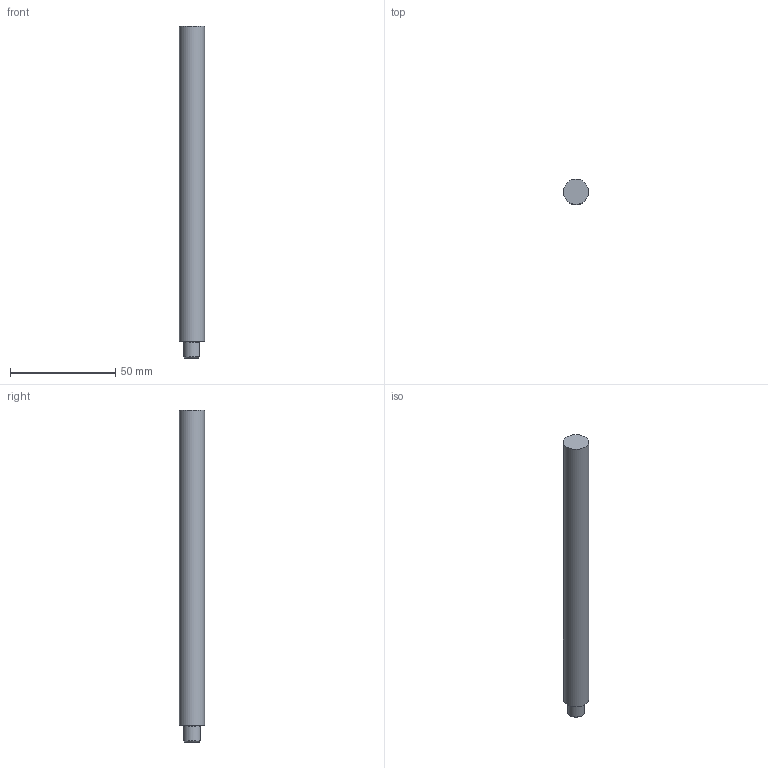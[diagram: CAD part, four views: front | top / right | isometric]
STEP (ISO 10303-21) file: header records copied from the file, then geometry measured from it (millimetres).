
FILE_DESCRIPTION (( 'STEP AP214' ), '1' );
FILE_NAME ('KKPHF Pin C_-_8-150.step', '2024-02-07T08:52:39', ( '' ), ( '' ), 'SwSTEP 2.0', 'SolidWorks 2020', '' );
FILE_SCHEMA (( 'AUTOMOTIVE_DESIGN' ));
Length unit declared in the file: millimetre
Products named in the file (1): KKPHF  Pin C_-_8-150
Bounding box: 12 x 12 x 157.9 mm (x, y, z)
Volume: 17260 mm3; surface area: 6172.6 mm2
Topology: 1 solids, 1 shells, 12 faces, 22 edges, 13 vertices
Faces by surface type: plane 5, cylinder 4, cone 2, torus 1
Full cylindrical faces by diameter (mm): 3.3 x1, 12 x1
Entity records: 323 total; most frequent: CARTESIAN_POINT 59, DIRECTION 48, ORIENTED_EDGE 36, AXIS2_PLACEMENT_3D 21, EDGE_CURVE 18, EDGE_LOOP 16, FACE_OUTER_BOUND 14, ADVANCED_FACE 12
